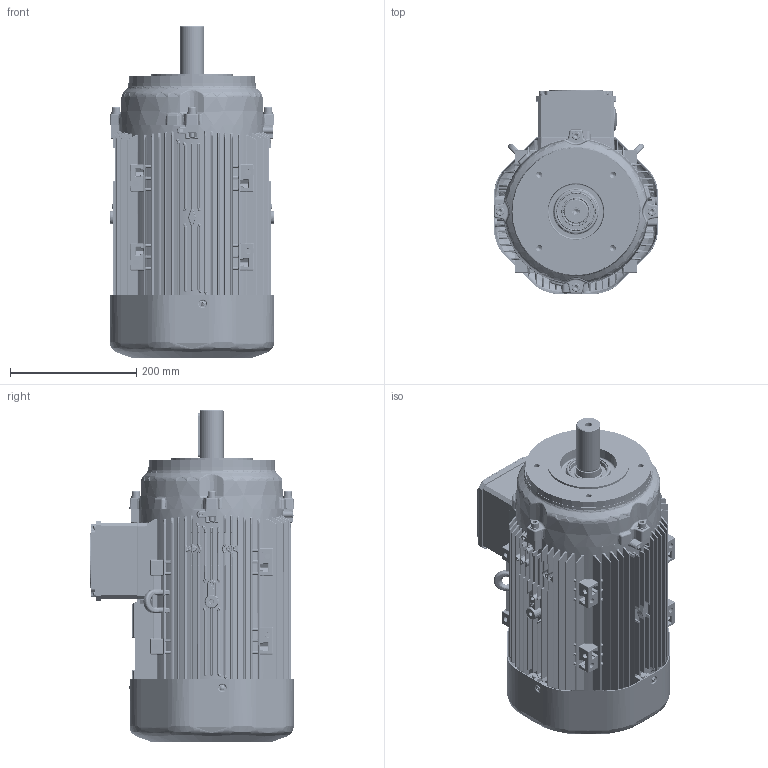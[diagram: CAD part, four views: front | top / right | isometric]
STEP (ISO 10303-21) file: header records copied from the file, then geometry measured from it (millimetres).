
FILE_DESCRIPTION(/* description */ (''),/* implementation_level */ '2;1');
FILE_NAME(/* name */ 'OUTLOOK VIEW QH132 FC B14 FT165 SPL.stp',/* time_stamp */ '2021-09-21T15:10:27+03:00',/* author */ (''),/* organization */ (''),/* preprocessor_version */ 'ST-DEVELOPER v16',/* originating_system */ 'SIEMENS PLM Software NX 11.0',/* authorisation */ '');
FILE_SCHEMA (('AUTOMOTIVE_DESIGN { 1 0 10303 214 3 1 1 1 }'));
Products named in the file (1): 260652D491E0rxfh
Bounding box: 260.83 x 323.12 x 526.5 mm (x, y, z)
Volume: 4240899.1 mm3; surface area: 1757505.8 mm2
Topology: 65 solids, 67 shells, 13449 faces, 31568 edges, 17524 vertices
Faces by surface type: cylinder 4406, bspline 3757, plane 2705, sphere 1254, torus 810, cone 486, extrusion 31
Full cylindrical faces by diameter (mm): 2.5 x2, 3.5 x2, 4 x4, 4.2 x8, 5.5 x8, 5.6 x1, 6.8 x1, 8 x20, 8.028 x3, 8.477 x2, 8.478 x1, 8.5 x12, 9 x4, 10.5 x1, 13 x8, 15 x2, 30.4 x2, 34.4 x1, 35 x1, 37.4 x1, 37.5 x1, 38 x1, 39.4 x2, 40 x5, 40.2 x1, 40.5 x1, 42.94 x1, 44 x2, 46.5 x1, 52.6 x4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
Entity records: 439017 total; most frequent: CARTESIAN_POINT 156135, ORIENTED_EDGE 59852, DIRECTION 57186, EDGE_CURVE 29926, AXIS2_PLACEMENT_3D 23462, VERTEX_POINT 17306, EDGE_LOOP 14648, ADVANCED_FACE 13448
